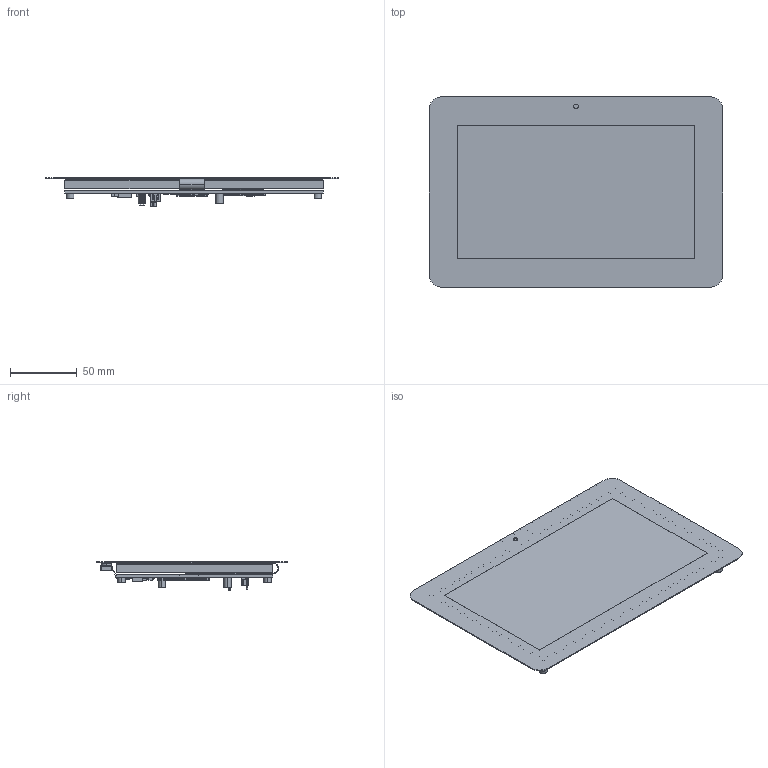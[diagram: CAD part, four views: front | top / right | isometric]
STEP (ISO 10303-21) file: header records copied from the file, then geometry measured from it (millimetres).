
FILE_DESCRIPTION((''),'2;1');
FILE_NAME('8INCH-DSI-LCD_ASM','2025-05-08T15:13:52',('xiaojisheng'),(''),'CREO PARAMETRIC BY PTC INC, 2021063','CREO PARAMETRIC BY PTC INC, 2021063','');
FILE_SCHEMA(('CONFIG_CONTROL_DESIGN','SHAPE_APPEARANCE_LAYERS_GROUPS'));
Length unit declared in the file: millimetre
Products named in the file (273): 8INCH-800X480-TP; 8INCH-800X480-LCD; 8INCH-800X480-LCD_TP_ASM; BOARD; EXTRUDED-6468; 1559870256_ASM; EXTRUDED-6840; 1045012912_ASM; R87_ASM; EXTRUDED-7248; 938440080_ASM; EXTRUDED-7620; 938439952_ASM; R62_ASM; R61_ASM; R60_ASM; C41_ASM; C40_ASM; R44_ASM; C39_ASM; EXTRUDED-8296; 1559870512_ASM; TVS2_ASM; TVS1_ASM; R59_ASM; EXTRUDED-8789; 938441104_ASM; EXTRUDED-9161; 938441232_ASM; EXTRUDED-9533; 938441360_ASM; CYLINDER; 887454488_ASM; EXTRUDED-10056; 783210384_ASM; EXTRUDED-10740; 783210512_ASM; R58_ASM; EXTRUDED-11455; 938436880_ASM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
Assembly tree (765 placements, depth 6):
  8INCH-DSI-LCD_ASM
    8INCH-800X480-LCD_TP_ASM
      8INCH-800X480-TP
      8INCH-800X480-LCD
    8INCH_DSI_LCD-PCBA_ASM
      PCB_ASM
        BOARD
        R87_ASM
          1559870256_ASM
            EXTRUDED-6468
          1045012912_ASM  x2
            EXTRUDED-6840
        R62_ASM
          938440080_ASM
            EXTRUDED-7248
          938439952_ASM  x2
            EXTRUDED-7620
        R61_ASM
          938440080_ASM
            EXTRUDED-7248
          938439952_ASM  x2
            EXTRUDED-7620
        R60_ASM
          938440080_ASM
            EXTRUDED-7248
          938439952_ASM  x2
            EXTRUDED-7620
        C41_ASM
          938440080_ASM
            EXTRUDED-7248
          938439952_ASM  x2
            EXTRUDED-7620
        C40_ASM
          938440080_ASM
            EXTRUDED-7248
          938439952_ASM  x2
            EXTRUDED-7620
        R44_ASM
          938440080_ASM
            EXTRUDED-7248
          938439952_ASM  x2
            EXTRUDED-7620
        C39_ASM
          938439952_ASM  x2
            EXTRUDED-7620
          938440080_ASM
            EXTRUDED-7248
        TVS2_ASM
          1559870512_ASM
            EXTRUDED-8296
        TVS1_ASM
          1559870512_ASM
            EXTRUDED-8296
        R59_ASM
          938440080_ASM
            EXTRUDED-7248
          938439952_ASM  x2
            EXTRUDED-7620
        R58_ASM
          938441104_ASM
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Bounding box: 219 x 142.1 x 21.5 mm (x, y, z)
Volume: 224670.1 mm3; surface area: 172878.6 mm2
Topology: 550 solids, 550 shells, 3991 faces, 8464 edges, 5605 vertices
Faces by surface type: plane 3557, cylinder 296, cone 64, bspline 60, torus 8, sphere 6
Entity records: 46259 total; most frequent: CARTESIAN_POINT 11028, DIRECTION 7043, ORIENTED_EDGE 3662, AXIS2_PLACEMENT_3D 2777, PRESENTATION_STYLE_ASSIGNMENT 1895, STYLED_ITEM 1875, EDGE_CURVE 1831, CURVE_STYLE 1819
